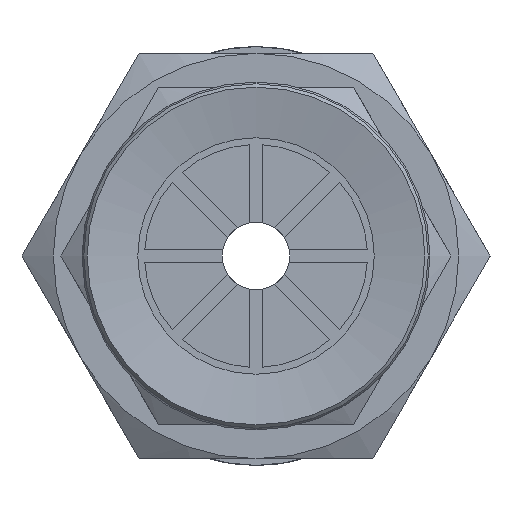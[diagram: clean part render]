
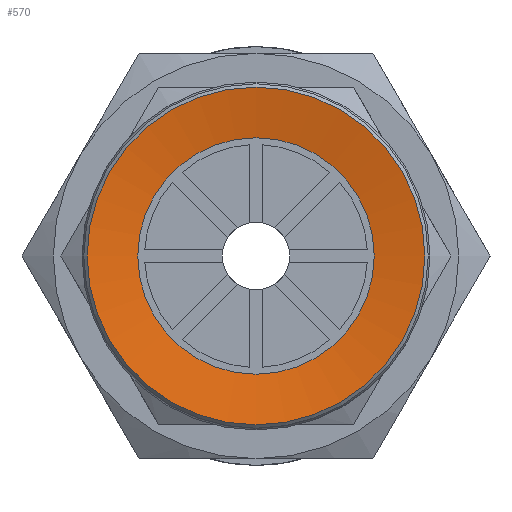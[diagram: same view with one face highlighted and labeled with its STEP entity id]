
A CAD part, front view. The second image highlights one B-rep face of the part: STEP entity #570.
In plain terms, the highlighted conical face has half-angle 80 degrees and reference radius 5 mm.
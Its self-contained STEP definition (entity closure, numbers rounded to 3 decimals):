
#570=ADVANCED_FACE('',(#909,#910),#911,.F.);
#909=FACE_BOUND('',#1334,.T.);
#910=FACE_OUTER_BOUND('',#1335,.T.);
#911=CONICAL_SURFACE('',#1336,5.0,1.396);
#1334=EDGE_LOOP('',(#2465));
#1335=EDGE_LOOP('',(#2466));
#1336=AXIS2_PLACEMENT_3D('',#2467,#2468,#2469);
#2465=ORIENTED_EDGE('',*,*,#3086,.T.);
#2466=ORIENTED_EDGE('',*,*,#3012,.F.);
#2467=CARTESIAN_POINT('',(0.0,-20.749,0.));
#2468=DIRECTION('',(0.0,0.,-1.0));
#2469=DIRECTION('',(0.0,1.0,0.));
#3012=EDGE_CURVE('',#3449,#3449,#3450,.T.);
#3086=EDGE_CURVE('',#3579,#3579,#3580,.T.);
#3449=VERTEX_POINT('',#4333);
#3450=CIRCLE('',#4334,5.0);
#3579=VERTEX_POINT('',#4503);
#3580=CIRCLE('',#4504,3.5);
#4333=CARTESIAN_POINT('',(0.0,-25.749,0.));
#4334=AXIS2_PLACEMENT_3D('',#5232,#5233,#5234);
#4503=CARTESIAN_POINT('',(0.0,-24.249,0.264));
#4504=AXIS2_PLACEMENT_3D('',#5374,#5375,#5376);
#5232=CARTESIAN_POINT('',(0.0,-20.749,0.));
#5233=DIRECTION('',(0.0,0.,1.0));
#5234=DIRECTION('',(0.0,-1.0,0.));
#5374=CARTESIAN_POINT('',(0.0,-20.749,0.264));
#5375=DIRECTION('',(0.0,0.,1.0));
#5376=DIRECTION('',(0.0,-1.0,0.));
